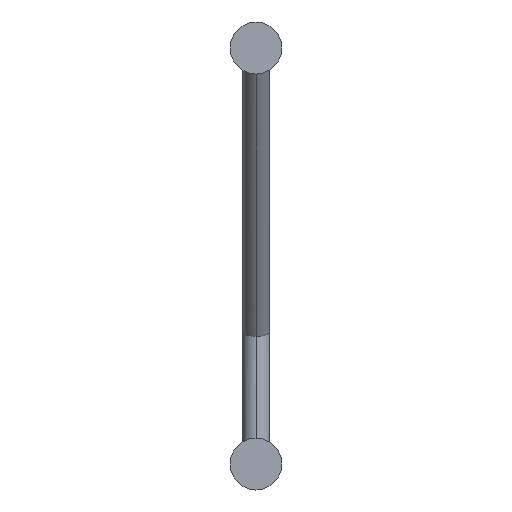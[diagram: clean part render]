
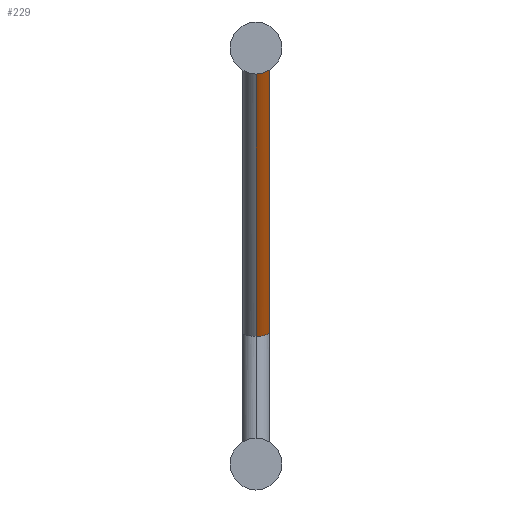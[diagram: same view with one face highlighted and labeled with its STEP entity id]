
A CAD part, front view. The second image highlights one B-rep face of the part: STEP entity #229.
In plain terms, the highlighted cylindrical face has radius 4 mm (diameter 8 mm), a partial arc.
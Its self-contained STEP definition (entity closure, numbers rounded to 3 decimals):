
#26 =( BOUNDED_CURVE ( )  B_SPLINE_CURVE ( 3, ( #711, #707, #706, #705 ),
 .UNSPECIFIED., .F., .T. ) 
 B_SPLINE_CURVE_WITH_KNOTS ( ( 4, 4 ),
 ( 0., 3.142 ),
 .UNSPECIFIED. ) 
 CURVE ( )  GEOMETRIC_REPRESENTATION_ITEM ( )  RATIONAL_B_SPLINE_CURVE ( ( 1., 0.333, 0.333, 1. ) ) 
 REPRESENTATION_ITEM ( '' )  );
#27 =( BOUNDED_CURVE ( )  B_SPLINE_CURVE ( 3, ( #278, #345, #288, #262 ),
 .UNSPECIFIED., .F., .T. ) 
 B_SPLINE_CURVE_WITH_KNOTS ( ( 4, 4 ),
 ( 0., 1.571 ),
 .UNSPECIFIED. ) 
 CURVE ( )  GEOMETRIC_REPRESENTATION_ITEM ( )  RATIONAL_B_SPLINE_CURVE ( ( 1., 0.805, 0.805, 1. ) ) 
 REPRESENTATION_ITEM ( '' )  );
#33 =( BOUNDED_CURVE ( )  B_SPLINE_CURVE ( 3, ( #622, #108, #106, #102 ),
 .UNSPECIFIED., .F., .T. ) 
 B_SPLINE_CURVE_WITH_KNOTS ( ( 4, 4 ),
 ( 1.571, 3.142 ),
 .UNSPECIFIED. ) 
 CURVE ( )  GEOMETRIC_REPRESENTATION_ITEM ( )  RATIONAL_B_SPLINE_CURVE ( ( 1., 0.805, 0.805, 1. ) ) 
 REPRESENTATION_ITEM ( '' )  );
#53 = CARTESIAN_POINT ( 'NONE',  ( 0., 72.321, 116. ) ) ;
#81 = CARTESIAN_POINT ( 'NONE',  ( 4., 74.403, 120. ) ) ;
#88 = CARTESIAN_POINT ( 'NONE',  ( 0., 135.75, 39.361 ) ) ;
#89 = CARTESIAN_POINT ( 'NONE',  ( 0., 76.485, 124. ) ) ;
#102 = CARTESIAN_POINT ( 'NONE',  ( 0., 72.321, 116. ) ) ;
#104 = CARTESIAN_POINT ( 'NONE',  ( 0., 127.75, 36.839 ) ) ;
#106 = CARTESIAN_POINT ( 'NONE',  ( 2.343, 72.321, 116. ) ) ;
#108 = CARTESIAN_POINT ( 'NONE',  ( 4., 73.183, 117.657 ) ) ;
#115 = DIRECTION ( 'NONE',  ( 0., -0.574, 0.819 ) ) ;
#128 = CARTESIAN_POINT ( 'NONE',  ( 0., 128.473, 35.806 ) ) ;
#229 = ADVANCED_FACE ( 'NONE', ( #1215 ), #1211, .T. ) ;
#262 = CARTESIAN_POINT ( 'NONE',  ( 4., 74.403, 120. ) ) ;
#272 = DIRECTION ( 'NONE',  ( 0., -0.574, 0.819 ) ) ;
#278 = CARTESIAN_POINT ( 'NONE',  ( 0., 76.485, 124. ) ) ;
#288 = CARTESIAN_POINT ( 'NONE',  ( 4., 75.623, 122.343 ) ) ;
#315 = CARTESIAN_POINT ( 'NONE',  ( 0., 135.027, 40.394 ) ) ;
#345 = CARTESIAN_POINT ( 'NONE',  ( 2.343, 76.485, 124. ) ) ;
#388 = EDGE_CURVE ( 'NONE', #587, #532, #1022, .T. ) ;
#431 = AXIS2_PLACEMENT_3D ( 'NONE', #528, #530, #533 ) ;
#452 = EDGE_CURVE ( 'NONE', #600, #599, #1066, .T. ) ;
#468 = EDGE_CURVE ( 'NONE', #599, #607, #27, .T. ) ;
#482 = EDGE_CURVE ( 'NONE', #587, #600, #26, .T. ) ;
#526 = EDGE_CURVE ( 'NONE', #607, #532, #33, .T. ) ;
#528 = CARTESIAN_POINT ( 'NONE',  ( 0., 131.75, 38.1 ) ) ;
#530 = DIRECTION ( 'NONE',  ( 0., -0.574, 0.819 ) ) ;
#532 = VERTEX_POINT ( 'NONE', #53 ) ;
#533 = DIRECTION ( 'NONE',  ( 0., -0.819, -0.574 ) ) ;
#587 = VERTEX_POINT ( 'NONE', #104 ) ;
#599 = VERTEX_POINT ( 'NONE', #89 ) ;
#600 = VERTEX_POINT ( 'NONE', #88 ) ;
#607 = VERTEX_POINT ( 'NONE', #81 ) ;
#622 = CARTESIAN_POINT ( 'NONE',  ( 4., 74.403, 120. ) ) ;
#705 = CARTESIAN_POINT ( 'NONE',  ( 0., 135.75, 39.361 ) ) ;
#706 = CARTESIAN_POINT ( 'NONE',  ( 8., 135.75, 39.361 ) ) ;
#707 = CARTESIAN_POINT ( 'NONE',  ( 8., 127.75, 36.839 ) ) ;
#711 = CARTESIAN_POINT ( 'NONE',  ( 0., 127.75, 36.839 ) ) ;
#950 = VECTOR ( 'NONE', #115, 1000. ) ;
#991 = EDGE_LOOP ( 'NONE', ( #1111, #1113, #1107, #1108, #1109 ) ) ;
#1022 = LINE ( 'NONE', #128, #950 ) ;
#1047 = VECTOR ( 'NONE', #272, 1000. ) ;
#1066 = LINE ( 'NONE', #315, #1047 ) ;
#1107 = ORIENTED_EDGE ( 'NONE', *, *, #468, .T. ) ;
#1108 = ORIENTED_EDGE ( 'NONE', *, *, #526, .T. ) ;
#1109 = ORIENTED_EDGE ( 'NONE', *, *, #388, .F. ) ;
#1111 = ORIENTED_EDGE ( 'NONE', *, *, #482, .T. ) ;
#1113 = ORIENTED_EDGE ( 'NONE', *, *, #452, .T. ) ;
#1211 = CYLINDRICAL_SURFACE ( 'NONE', #431, 4. ) ;
#1215 = FACE_OUTER_BOUND ( 'NONE', #991, .T. ) ;
